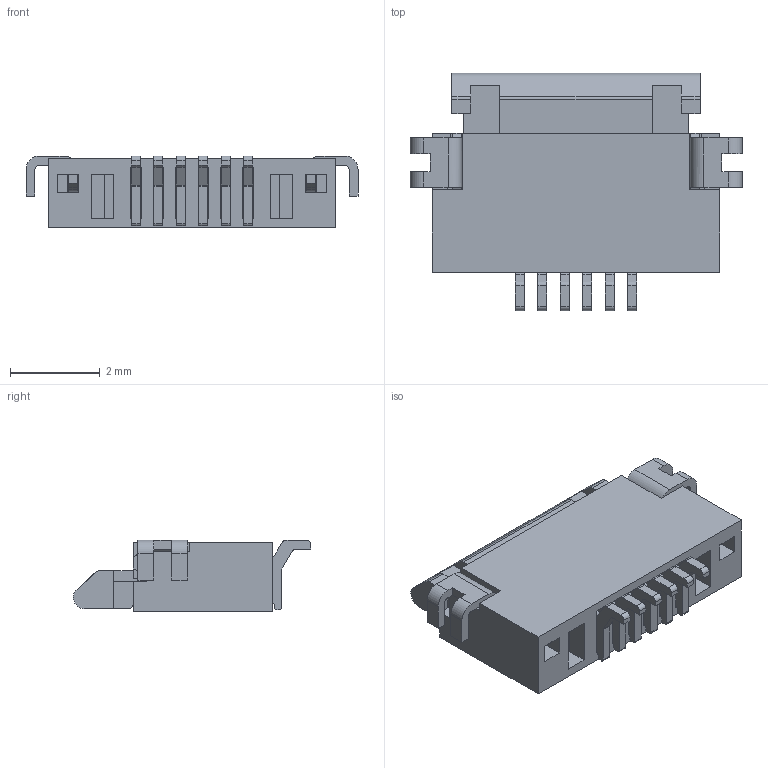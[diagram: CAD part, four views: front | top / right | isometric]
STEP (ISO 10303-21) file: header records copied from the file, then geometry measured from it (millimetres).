
FILE_DESCRIPTION((''),'2;1');
FILE_NAME('S-50506-006XX-XXX','2011-08-23T',('ouchwu'),(''),'PRO/ENGINEER BY PARAMETRIC TECHNOLOGY CORPORATION, 2007450','PRO/ENGINEER BY PARAMETRIC TECHNOLOGY CORPORATION, 2007450','');
FILE_SCHEMA(('CONFIG_CONTROL_DESIGN'));
Length unit declared in the file: millimetre
Products named in the file (1): S-50506-006XX-XXX
Bounding box: 7.4 x 5.29 x 1.6 mm (x, y, z)
Volume: 26.1 mm3; surface area: 198.2 mm2
Topology: 1 solids, 1 shells, 536 faces, 1622 edges, 1062 vertices
Faces by surface type: plane 372, cylinder 164
Entity records: 18235 total; most frequent: CARTESIAN_POINT 3247, ORIENTED_EDGE 3244, DIRECTION 3042, EDGE_CURVE 1622, VECTOR 1258, LINE 1258, VERTEX_POINT 1062, AXIS2_PLACEMENT_3D 892
